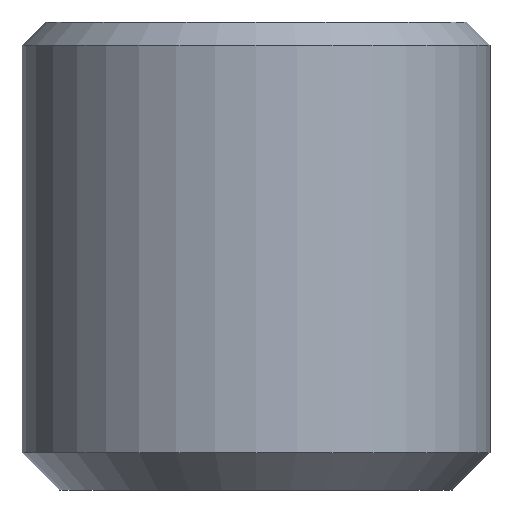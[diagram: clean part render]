
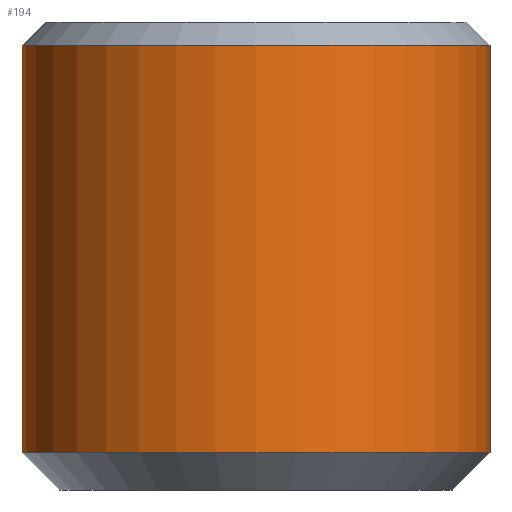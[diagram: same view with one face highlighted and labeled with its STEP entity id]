
A CAD part, front view. The second image highlights one B-rep face of the part: STEP entity #194.
In plain terms, the highlighted cylindrical face has radius 5 mm (diameter 10 mm), a partial arc.
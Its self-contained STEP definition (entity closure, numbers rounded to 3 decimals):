
#2 = LINE ( 'NONE', #166, #20 ) ;
#3 = EDGE_LOOP ( 'NONE', ( #222, #9, #68, #248 ) ) ;
#7 = VECTOR ( 'NONE', #56, 1000. ) ;
#9 = ORIENTED_EDGE ( 'NONE', *, *, #284, .T. ) ;
#20 = VECTOR ( 'NONE', #244, 1000. ) ;
#42 = CIRCLE ( 'NONE', #240, 5. ) ;
#52 = CYLINDRICAL_SURFACE ( 'NONE', #286, 5. ) ;
#56 = DIRECTION ( 'NONE',  ( 0., 0., 1. ) ) ;
#68 = ORIENTED_EDGE ( 'NONE', *, *, #281, .T. ) ;
#76 = FACE_OUTER_BOUND ( 'NONE', #3, .T. ) ;
#84 = CARTESIAN_POINT ( 'NONE',  ( 5., 0., 9.5 ) ) ;
#114 = CARTESIAN_POINT ( 'NONE',  ( 0., 0., 9.5 ) ) ;
#115 = DIRECTION ( 'NONE',  ( 0., 0., 1. ) ) ;
#152 = EDGE_CURVE ( 'NONE', #317, #181, #300, .T. ) ;
#163 = CARTESIAN_POINT ( 'NONE',  ( 0., 0., 30. ) ) ;
#166 = CARTESIAN_POINT ( 'NONE',  ( 5., 0., 30. ) ) ;
#181 = VERTEX_POINT ( 'NONE', #298 ) ;
#194 = ADVANCED_FACE ( 'NONE', ( #76 ), #52, .T. ) ;
#195 = CARTESIAN_POINT ( 'NONE',  ( -5., 0., 30. ) ) ;
#197 = AXIS2_PLACEMENT_3D ( 'NONE', #114, #323, #296 ) ;
#222 = ORIENTED_EDGE ( 'NONE', *, *, #336, .F. ) ;
#240 = AXIS2_PLACEMENT_3D ( 'NONE', #265, #115, #354 ) ;
#242 = DIRECTION ( 'NONE',  ( 1., 0., 0. ) ) ;
#244 = DIRECTION ( 'NONE',  ( 0., 0., 1. ) ) ;
#248 = ORIENTED_EDGE ( 'NONE', *, *, #152, .T. ) ;
#265 = CARTESIAN_POINT ( 'NONE',  ( 0., 0., 0.8 ) ) ;
#266 = DIRECTION ( 'NONE',  ( 0., 0., 1. ) ) ;
#273 = LINE ( 'NONE', #195, #7 ) ;
#281 = EDGE_CURVE ( 'NONE', #328, #317, #2, .T. ) ;
#284 = EDGE_CURVE ( 'NONE', #355, #328, #42, .T. ) ;
#286 = AXIS2_PLACEMENT_3D ( 'NONE', #163, #266, #242 ) ;
#296 = DIRECTION ( 'NONE',  ( -1., 0., 0. ) ) ;
#298 = CARTESIAN_POINT ( 'NONE',  ( -5., 0., 9.5 ) ) ;
#300 = CIRCLE ( 'NONE', #197, 5. ) ;
#317 = VERTEX_POINT ( 'NONE', #84 ) ;
#323 = DIRECTION ( 'NONE',  ( 0., 0., -1. ) ) ;
#327 = CARTESIAN_POINT ( 'NONE',  ( 5., 0., 0.8 ) ) ;
#328 = VERTEX_POINT ( 'NONE', #327 ) ;
#330 = CARTESIAN_POINT ( 'NONE',  ( -5., 0., 0.8 ) ) ;
#336 = EDGE_CURVE ( 'NONE', #355, #181, #273, .T. ) ;
#354 = DIRECTION ( 'NONE',  ( 1., 0., 0. ) ) ;
#355 = VERTEX_POINT ( 'NONE', #330 ) ;
